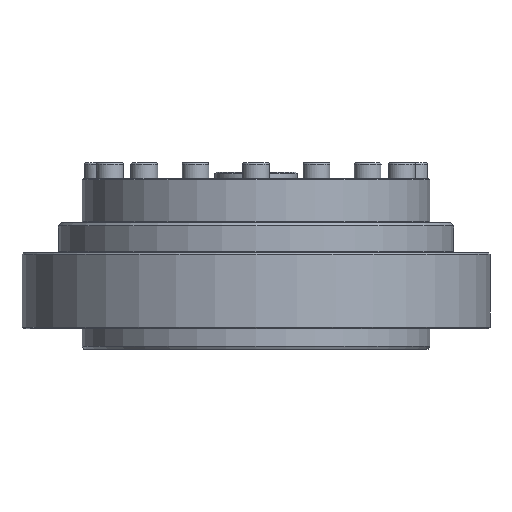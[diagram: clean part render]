
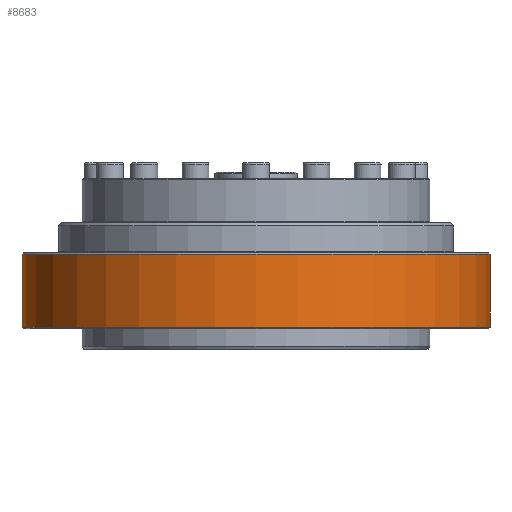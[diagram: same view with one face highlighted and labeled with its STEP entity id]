
A CAD part, front view. The second image highlights one B-rep face of the part: STEP entity #8683.
In plain terms, the highlighted cylindrical face has radius 74 mm (diameter 148 mm), a full revolution.
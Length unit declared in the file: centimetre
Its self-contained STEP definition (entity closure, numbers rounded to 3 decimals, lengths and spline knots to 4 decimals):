
#350=CYLINDRICAL_SURFACE('',#9655,7.4);
#1736=FACE_BOUND('',#3256,.T.);
#2512=FACE_OUTER_BOUND('',#3255,.T.);
#3255=EDGE_LOOP('',(#7476));
#3256=EDGE_LOOP('',(#7477));
#4068=CIRCLE('',#9654,7.4);
#4069=CIRCLE('',#9656,7.4);
#4738=VERTEX_POINT('',#14437);
#4739=VERTEX_POINT('',#14440);
#5742=EDGE_CURVE('',#4738,#4738,#4068,.T.);
#5743=EDGE_CURVE('',#4739,#4739,#4069,.T.);
#7476=ORIENTED_EDGE('',*,*,#5743,.F.);
#7477=ORIENTED_EDGE('',*,*,#5742,.F.);
#8683=ADVANCED_FACE('',(#2512,#1736),#350,.T.);
#9654=AXIS2_PLACEMENT_3D('',#14438,#11746,#11747);
#9655=AXIS2_PLACEMENT_3D('',#14439,#11748,#11749);
#9656=AXIS2_PLACEMENT_3D('',#14441,#11750,#11751);
#11746=DIRECTION('center_axis',(0.,0.,1.));
#11747=DIRECTION('ref_axis',(-1.,0.,0.));
#11748=DIRECTION('center_axis',(0.,0.,-1.));
#11749=DIRECTION('ref_axis',(1.,0.,0.));
#11750=DIRECTION('center_axis',(0.,0.,-1.));
#11751=DIRECTION('ref_axis',(-1.,0.,0.));
#14437=CARTESIAN_POINT('',(7.4,0.,3.));
#14438=CARTESIAN_POINT('Origin',(0.,0.,3.));
#14439=CARTESIAN_POINT('Origin',(0.,0.,1.75));
#14440=CARTESIAN_POINT('',(7.4,0.,0.7));
#14441=CARTESIAN_POINT('Origin',(0.,0.,0.7));
